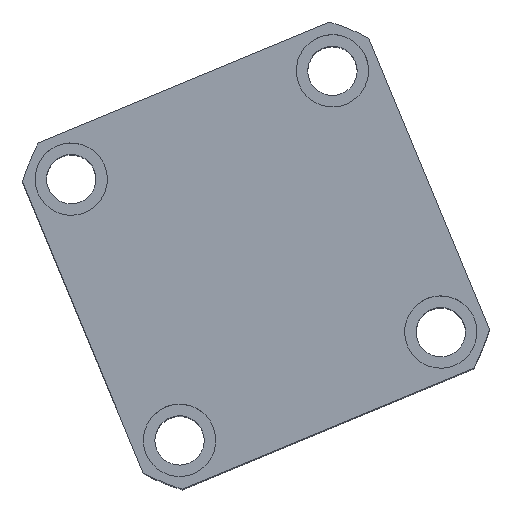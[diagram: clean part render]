
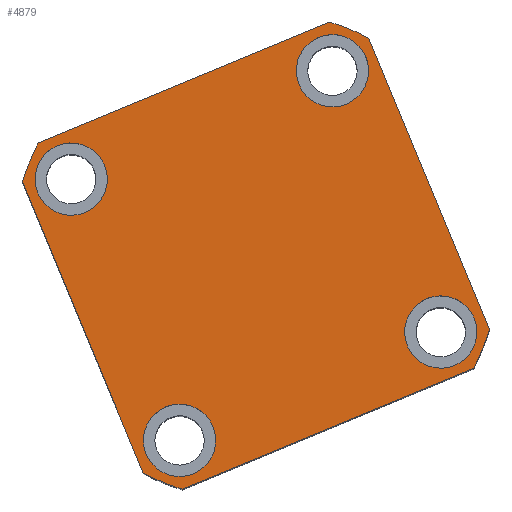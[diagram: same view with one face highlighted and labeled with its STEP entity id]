
A CAD part, top view. The second image highlights one B-rep face of the part: STEP entity #4879.
In plain terms, the highlighted planar face has unit normal (0, 0, 1) as drawn and (0, 0, -1) by its records, which use the part's own axes.
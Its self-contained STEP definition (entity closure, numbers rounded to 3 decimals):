
#140 = VERTEX_POINT ( 'NONE', #10718 ) ;
#323 = DIRECTION ( 'NONE',  ( 0., 0., -1. ) ) ;
#456 = DIRECTION ( 'NONE',  ( -1., 0., 0. ) ) ;
#520 = VERTEX_POINT ( 'NONE', #3820 ) ;
#600 = CARTESIAN_POINT ( 'NONE',  ( 43., 43., 0. ) ) ;
#610 = EDGE_LOOP ( 'NONE', ( #1378, #11510 ) ) ;
#667 = CARTESIAN_POINT ( 'NONE',  ( -54., 43., 0. ) ) ;
#752 = CARTESIAN_POINT ( 'NONE',  ( -47.971, -57., 0. ) ) ;
#855 = AXIS2_PLACEMENT_3D ( 'NONE', #4910, #4861, #4814 ) ;
#900 = CARTESIAN_POINT ( 'NONE',  ( 43., -43., 0. ) ) ;
#950 = CARTESIAN_POINT ( 'NONE',  ( 54., 43., 0. ) ) ;
#957 = VERTEX_POINT ( 'NONE', #667 ) ;
#959 = CARTESIAN_POINT ( 'NONE',  ( -43., 43., 0. ) ) ;
#1030 = VECTOR ( 'NONE', #4961, 1000. ) ;
#1117 = AXIS2_PLACEMENT_3D ( 'NONE', #1500, #9759, #2728 ) ;
#1146 = DIRECTION ( 'NONE',  ( -1., 0., 0. ) ) ;
#1193 = ORIENTED_EDGE ( 'NONE', *, *, #5976, .F. ) ;
#1228 = CARTESIAN_POINT ( 'NONE',  ( -32., -43., 0. ) ) ;
#1331 = FACE_OUTER_BOUND ( 'NONE', #9335, .T. ) ;
#1378 = ORIENTED_EDGE ( 'NONE', *, *, #6232, .F. ) ;
#1426 = ORIENTED_EDGE ( 'NONE', *, *, #9493, .F. ) ;
#1500 = CARTESIAN_POINT ( 'NONE',  ( 0., 0., 0. ) ) ;
#1650 = DIRECTION ( 'NONE',  ( 1., 0., 0. ) ) ;
#1652 = DIRECTION ( 'NONE',  ( 0., 0., 1. ) ) ;
#1670 = PLANE ( 'NONE',  #10878 ) ;
#1697 = CARTESIAN_POINT ( 'NONE',  ( -47.971, 57., 0. ) ) ;
#1704 = EDGE_CURVE ( 'NONE', #7981, #10735, #14638, .T. ) ;
#1761 = VECTOR ( 'NONE', #3041, 1000. ) ;
#1817 = CARTESIAN_POINT ( 'NONE',  ( 0., 0., 0. ) ) ;
#1833 = EDGE_CURVE ( 'NONE', #5995, #13229, #11574, .T. ) ;
#1840 = DIRECTION ( 'NONE',  ( -1., 0., 0. ) ) ;
#2011 = ORIENTED_EDGE ( 'NONE', *, *, #3999, .F. ) ;
#2132 = DIRECTION ( 'NONE',  ( -1., 0., 0. ) ) ;
#2157 = AXIS2_PLACEMENT_3D ( 'NONE', #900, #9195, #2132 ) ;
#2188 = DIRECTION ( 'NONE',  ( -1., 0., 0. ) ) ;
#2304 = CIRCLE ( 'NONE', #13800, 11. ) ;
#2489 = VERTEX_POINT ( 'NONE', #7130 ) ;
#2656 = VERTEX_POINT ( 'NONE', #8729 ) ;
#2694 = EDGE_CURVE ( 'NONE', #2489, #520, #9922, .T. ) ;
#2728 = DIRECTION ( 'NONE',  ( 1., 0., 0. ) ) ;
#2930 = ORIENTED_EDGE ( 'NONE', *, *, #3952, .F. ) ;
#3041 = DIRECTION ( 'NONE',  ( -1., 0., 0. ) ) ;
#3062 = EDGE_LOOP ( 'NONE', ( #8258, #3822 ) ) ;
#3099 = CARTESIAN_POINT ( 'NONE',  ( -32., 43., 0. ) ) ;
#3279 = ORIENTED_EDGE ( 'NONE', *, *, #10397, .F. ) ;
#3505 = ORIENTED_EDGE ( 'NONE', *, *, #10418, .F. ) ;
#3820 = CARTESIAN_POINT ( 'NONE',  ( 57., -47.971, 0. ) ) ;
#3822 = ORIENTED_EDGE ( 'NONE', *, *, #13812, .F. ) ;
#3952 = EDGE_CURVE ( 'NONE', #12189, #957, #2304, .T. ) ;
#3999 = EDGE_CURVE ( 'NONE', #520, #140, #11276, .T. ) ;
#4154 = CIRCLE ( 'NONE', #2157, 11. ) ;
#4235 = LINE ( 'NONE', #5110, #7015 ) ;
#4554 = FACE_BOUND ( 'NONE', #10044, .T. ) ;
#4814 = DIRECTION ( 'NONE',  ( 1., 0., 0. ) ) ;
#4861 = DIRECTION ( 'NONE',  ( 0., 0., 1. ) ) ;
#4879 = ADVANCED_FACE ( 'NONE', ( #13821, #4938, #7671, #4554, #1331 ), #1670, .F. ) ;
#4910 = CARTESIAN_POINT ( 'NONE',  ( 0., 0., 0. ) ) ;
#4938 = FACE_BOUND ( 'NONE', #610, .T. ) ;
#4961 = DIRECTION ( 'NONE',  ( 0., -1., 0. ) ) ;
#4976 = VERTEX_POINT ( 'NONE', #950 ) ;
#4979 = LINE ( 'NONE', #7755, #1761 ) ;
#5110 = CARTESIAN_POINT ( 'NONE',  ( -57., -57., 0. ) ) ;
#5231 = CIRCLE ( 'NONE', #8767, 11. ) ;
#5444 = VERTEX_POINT ( 'NONE', #752 ) ;
#5456 = CARTESIAN_POINT ( 'NONE',  ( 0., 0., 0. ) ) ;
#5976 = EDGE_CURVE ( 'NONE', #4976, #7213, #14167, .T. ) ;
#5995 = VERTEX_POINT ( 'NONE', #1697 ) ;
#6127 = CIRCLE ( 'NONE', #6275, 11. ) ;
#6223 = DIRECTION ( 'NONE',  ( 0., 1., 0. ) ) ;
#6232 = EDGE_CURVE ( 'NONE', #11963, #13234, #4154, .T. ) ;
#6259 = CARTESIAN_POINT ( 'NONE',  ( 57., 57., 0. ) ) ;
#6275 = AXIS2_PLACEMENT_3D ( 'NONE', #15180, #8273, #1146 ) ;
#6484 = DIRECTION ( 'NONE',  ( -1., 0., 0. ) ) ;
#6501 = DIRECTION ( 'NONE',  ( 0., 0., -1. ) ) ;
#6505 = CARTESIAN_POINT ( 'NONE',  ( -43., 43., 0. ) ) ;
#6624 = DIRECTION ( 'NONE',  ( 1., 0., 0. ) ) ;
#6678 = ORIENTED_EDGE ( 'NONE', *, *, #8161, .F. ) ;
#7015 = VECTOR ( 'NONE', #7445, 1000. ) ;
#7130 = CARTESIAN_POINT ( 'NONE',  ( 47.971, -57., 0. ) ) ;
#7213 = VERTEX_POINT ( 'NONE', #12980 ) ;
#7363 = LINE ( 'NONE', #13063, #1030 ) ;
#7409 = CIRCLE ( 'NONE', #1117, 74.5 ) ;
#7445 = DIRECTION ( 'NONE',  ( 1., 0., 0. ) ) ;
#7480 = CARTESIAN_POINT ( 'NONE',  ( -43., -43., 0. ) ) ;
#7617 = DIRECTION ( 'NONE',  ( 0., 0., -1. ) ) ;
#7671 = FACE_BOUND ( 'NONE', #11688, .T. ) ;
#7717 = CIRCLE ( 'NONE', #14895, 74.5 ) ;
#7755 = CARTESIAN_POINT ( 'NONE',  ( -57., 57., 0. ) ) ;
#7979 = DIRECTION ( 'NONE',  ( -1., 0., 0. ) ) ;
#7981 = VERTEX_POINT ( 'NONE', #8365 ) ;
#8003 = EDGE_CURVE ( 'NONE', #13229, #2656, #7363, .T. ) ;
#8033 = DIRECTION ( 'NONE',  ( 0., 0., -1. ) ) ;
#8087 = CARTESIAN_POINT ( 'NONE',  ( -43., -43., 0. ) ) ;
#8130 = CARTESIAN_POINT ( 'NONE',  ( 54., -43., 0. ) ) ;
#8161 = EDGE_CURVE ( 'NONE', #5444, #2489, #4235, .T. ) ;
#8231 = VECTOR ( 'NONE', #6223, 1000. ) ;
#8258 = ORIENTED_EDGE ( 'NONE', *, *, #1704, .F. ) ;
#8273 = DIRECTION ( 'NONE',  ( 0., 0., -1. ) ) ;
#8365 = CARTESIAN_POINT ( 'NONE',  ( -54., -43., 0. ) ) ;
#8484 = AXIS2_PLACEMENT_3D ( 'NONE', #7480, #323, #8659 ) ;
#8659 = DIRECTION ( 'NONE',  ( -1., 0., 0. ) ) ;
#8729 = CARTESIAN_POINT ( 'NONE',  ( -57., -47.971, 0. ) ) ;
#8767 = AXIS2_PLACEMENT_3D ( 'NONE', #959, #9251, #2188 ) ;
#8792 = CIRCLE ( 'NONE', #9674, 11. ) ;
#8851 = CIRCLE ( 'NONE', #8484, 11. ) ;
#8917 = DIRECTION ( 'NONE',  ( 0., 0., -1. ) ) ;
#8928 = CARTESIAN_POINT ( 'NONE',  ( 0., 0., 0. ) ) ;
#8945 = DIRECTION ( 'NONE',  ( 0., 0., 1. ) ) ;
#8963 = DIRECTION ( 'NONE',  ( 1., 0., 0. ) ) ;
#9109 = AXIS2_PLACEMENT_3D ( 'NONE', #8087, #8033, #7979 ) ;
#9195 = DIRECTION ( 'NONE',  ( 0., 0., -1. ) ) ;
#9251 = DIRECTION ( 'NONE',  ( 0., 0., -1. ) ) ;
#9335 = EDGE_LOOP ( 'NONE', ( #12991, #2011, #11733, #6678, #1426, #11919, #14798, #3505 ) ) ;
#9493 = EDGE_CURVE ( 'NONE', #2656, #5444, #7717, .T. ) ;
#9674 = AXIS2_PLACEMENT_3D ( 'NONE', #600, #8917, #1840 ) ;
#9759 = DIRECTION ( 'NONE',  ( 0., 0., 1. ) ) ;
#9834 = CARTESIAN_POINT ( 'NONE',  ( 47.971, 57., 0. ) ) ;
#9922 = CIRCLE ( 'NONE', #10056, 74.5 ) ;
#10044 = EDGE_LOOP ( 'NONE', ( #14257, #2930 ) ) ;
#10056 = AXIS2_PLACEMENT_3D ( 'NONE', #8928, #8945, #8963 ) ;
#10310 = AXIS2_PLACEMENT_3D ( 'NONE', #14527, #7617, #456 ) ;
#10397 = EDGE_CURVE ( 'NONE', #7213, #4976, #8792, .T. ) ;
#10418 = EDGE_CURVE ( 'NONE', #14841, #5995, #4979, .T. ) ;
#10718 = CARTESIAN_POINT ( 'NONE',  ( 57., 47.971, 0. ) ) ;
#10735 = VERTEX_POINT ( 'NONE', #1228 ) ;
#10878 = AXIS2_PLACEMENT_3D ( 'NONE', #1817, #1652, #1650 ) ;
#11276 = LINE ( 'NONE', #6259, #8231 ) ;
#11510 = ORIENTED_EDGE ( 'NONE', *, *, #15154, .F. ) ;
#11574 = CIRCLE ( 'NONE', #855, 74.5 ) ;
#11688 = EDGE_LOOP ( 'NONE', ( #3279, #1193 ) ) ;
#11733 = ORIENTED_EDGE ( 'NONE', *, *, #2694, .F. ) ;
#11919 = ORIENTED_EDGE ( 'NONE', *, *, #8003, .F. ) ;
#11963 = VERTEX_POINT ( 'NONE', #13016 ) ;
#12189 = VERTEX_POINT ( 'NONE', #3099 ) ;
#12685 = EDGE_CURVE ( 'NONE', #140, #14841, #7409, .T. ) ;
#12980 = CARTESIAN_POINT ( 'NONE',  ( 32., 43., 0. ) ) ;
#12991 = ORIENTED_EDGE ( 'NONE', *, *, #12685, .F. ) ;
#13016 = CARTESIAN_POINT ( 'NONE',  ( 32., -43., 0. ) ) ;
#13063 = CARTESIAN_POINT ( 'NONE',  ( -57., 57., 0. ) ) ;
#13208 = EDGE_CURVE ( 'NONE', #957, #12189, #5231, .T. ) ;
#13229 = VERTEX_POINT ( 'NONE', #14998 ) ;
#13234 = VERTEX_POINT ( 'NONE', #8130 ) ;
#13538 = DIRECTION ( 'NONE',  ( 0., 0., 1. ) ) ;
#13800 = AXIS2_PLACEMENT_3D ( 'NONE', #6505, #6501, #6484 ) ;
#13812 = EDGE_CURVE ( 'NONE', #10735, #7981, #8851, .T. ) ;
#13821 = FACE_BOUND ( 'NONE', #3062, .T. ) ;
#14167 = CIRCLE ( 'NONE', #10310, 11. ) ;
#14257 = ORIENTED_EDGE ( 'NONE', *, *, #13208, .F. ) ;
#14527 = CARTESIAN_POINT ( 'NONE',  ( 43., 43., 0. ) ) ;
#14638 = CIRCLE ( 'NONE', #9109, 11. ) ;
#14798 = ORIENTED_EDGE ( 'NONE', *, *, #1833, .F. ) ;
#14841 = VERTEX_POINT ( 'NONE', #9834 ) ;
#14895 = AXIS2_PLACEMENT_3D ( 'NONE', #5456, #13538, #6624 ) ;
#14998 = CARTESIAN_POINT ( 'NONE',  ( -57., 47.971, 0. ) ) ;
#15154 = EDGE_CURVE ( 'NONE', #13234, #11963, #6127, .T. ) ;
#15180 = CARTESIAN_POINT ( 'NONE',  ( 43., -43., 0. ) ) ;
